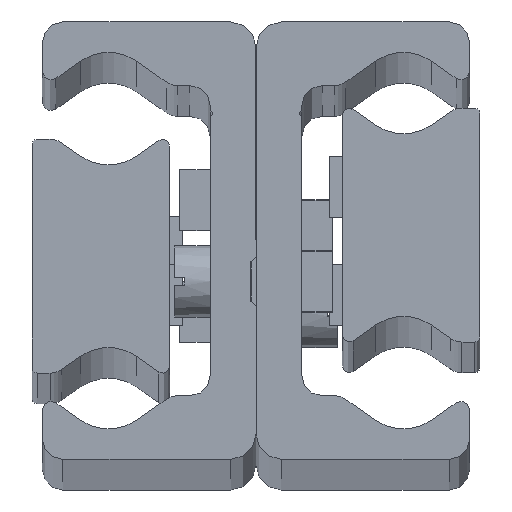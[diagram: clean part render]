
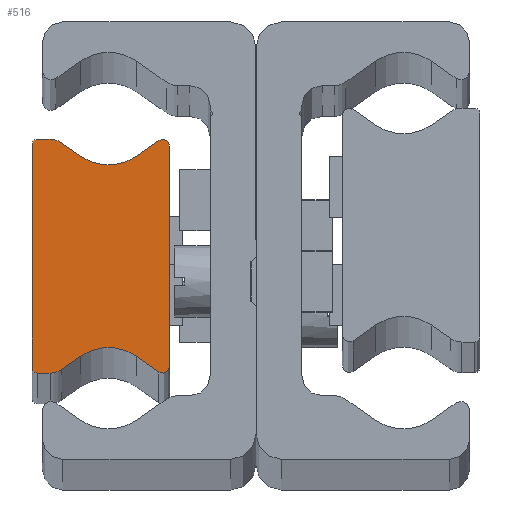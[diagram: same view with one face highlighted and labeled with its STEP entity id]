
A CAD part, top view. The second image highlights one B-rep face of the part: STEP entity #516.
In plain terms, the highlighted planar face has unit normal (0, 0, 1) as drawn and (0, 0, -1) by its records, which use the part's own axes.
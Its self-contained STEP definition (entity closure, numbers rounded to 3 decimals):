
#516 = ADVANCED_FACE( '', ( #1209 ), #1210, .F. );
#1209 = FACE_OUTER_BOUND( '', #2163, .T. );
#1210 = PLANE( '', #2164 );
#2163 = EDGE_LOOP( '', ( #3437, #3438, #3439, #3440, #3441, #3442, #3443, #3444, #3445, #3446, #3447, #3448, #3449, #3450, #3451, #3452 ) );
#2164 = AXIS2_PLACEMENT_3D( '', #3453, #3454, #3455 );
#3437 = ORIENTED_EDGE( '', *, *, #4916, .F. );
#3438 = ORIENTED_EDGE( '', *, *, #4917, .F. );
#3439 = ORIENTED_EDGE( '', *, *, #4918, .F. );
#3440 = ORIENTED_EDGE( '', *, *, #4919, .F. );
#3441 = ORIENTED_EDGE( '', *, *, #4920, .F. );
#3442 = ORIENTED_EDGE( '', *, *, #4788, .T. );
#3443 = ORIENTED_EDGE( '', *, *, #4921, .F. );
#3444 = ORIENTED_EDGE( '', *, *, #4922, .F. );
#3445 = ORIENTED_EDGE( '', *, *, #4923, .F. );
#3446 = ORIENTED_EDGE( '', *, *, #4924, .F. );
#3447 = ORIENTED_EDGE( '', *, *, #4925, .F. );
#3448 = ORIENTED_EDGE( '', *, *, #4926, .T. );
#3449 = ORIENTED_EDGE( '', *, *, #4631, .F. );
#3450 = ORIENTED_EDGE( '', *, *, #4716, .F. );
#3451 = ORIENTED_EDGE( '', *, *, #4927, .F. );
#3452 = ORIENTED_EDGE( '', *, *, #4928, .F. );
#3453 = CARTESIAN_POINT( '', ( 0.5, -11., -1730. ) );
#3454 = DIRECTION( '', ( 0., 0., 1. ) );
#3455 = DIRECTION( '', ( 1., 0., 0. ) );
#4631 = EDGE_CURVE( '', #5359, #5361, #5362, .T. );
#4716 = EDGE_CURVE( '', #5502, #5359, #5504, .T. );
#4788 = EDGE_CURVE( '', #5629, #5627, #5630, .T. );
#4916 = EDGE_CURVE( '', #5822, #5823, #5824, .T. );
#4917 = EDGE_CURVE( '', #5825, #5822, #5826, .T. );
#4918 = EDGE_CURVE( '', #5827, #5825, #5828, .T. );
#4919 = EDGE_CURVE( '', #5829, #5827, #5830, .T. );
#4920 = EDGE_CURVE( '', #5629, #5829, #5831, .T. );
#4921 = EDGE_CURVE( '', #5832, #5627, #5833, .T. );
#4922 = EDGE_CURVE( '', #5834, #5832, #5835, .T. );
#4923 = EDGE_CURVE( '', #5836, #5834, #5837, .T. );
#4924 = EDGE_CURVE( '', #5838, #5836, #5839, .T. );
#4925 = EDGE_CURVE( '', #5840, #5838, #5841, .T. );
#4926 = EDGE_CURVE( '', #5840, #5361, #5842, .T. );
#4927 = EDGE_CURVE( '', #5843, #5502, #5844, .T. );
#4928 = EDGE_CURVE( '', #5823, #5843, #5845, .T. );
#5359 = VERTEX_POINT( '', #6415 );
#5361 = VERTEX_POINT( '', #6418 );
#5362 = LINE( '', #6419, #6420 );
#5502 = VERTEX_POINT( '', #6579 );
#5504 = CIRCLE( '', #6582, 2. );
#5627 = VERTEX_POINT( '', #6729 );
#5629 = VERTEX_POINT( '', #6732 );
#5630 = CIRCLE( '', #6733, 4.763 );
#5822 = VERTEX_POINT( '', #6962 );
#5823 = VERTEX_POINT( '', #6963 );
#5824 = LINE( '', #6964, #6965 );
#5825 = VERTEX_POINT( '', #6966 );
#5826 = CIRCLE( '', #6967, 0.5 );
#5827 = VERTEX_POINT( '', #6968 );
#5828 = LINE( '', #6969, #6970 );
#5829 = VERTEX_POINT( '', #6971 );
#5830 = CIRCLE( '', #6972, 2. );
#5831 = LINE( '', #6973, #6974 );
#5832 = VERTEX_POINT( '', #6975 );
#5833 = LINE( '', #6976, #6977 );
#5834 = VERTEX_POINT( '', #6978 );
#5835 = CIRCLE( '', #6979, 0.668 );
#5836 = VERTEX_POINT( '', #6980 );
#5837 = LINE( '', #6981, #6982 );
#5838 = VERTEX_POINT( '', #6983 );
#5839 = CIRCLE( '', #6984, 0.668 );
#5840 = VERTEX_POINT( '', #6985 );
#5841 = LINE( '', #6986, #6987 );
#5842 = CIRCLE( '', #6988, 4.763 );
#5843 = VERTEX_POINT( '', #6989 );
#5844 = LINE( '', #6990, #6991 );
#5845 = CIRCLE( '', #6992, 0.5 );
#6415 = CARTESIAN_POINT( '', ( 2.895, -11.138, -1730. ) );
#6418 = CARTESIAN_POINT( '', ( 4.768, -9.827, -1730. ) );
#6419 = CARTESIAN_POINT( '', ( 2.895, -11.138, -1730. ) );
#6420 = VECTOR( '', #7598, 1000. );
#6579 = CARTESIAN_POINT( '', ( 1.748, -11.5, -1730. ) );
#6582 = AXIS2_PLACEMENT_3D( '', #7748, #7749, #7750 );
#6729 = CARTESIAN_POINT( '', ( 10.232, 9.827, -1730. ) );
#6732 = CARTESIAN_POINT( '', ( 4.768, 9.827, -1730. ) );
#6733 = AXIS2_PLACEMENT_3D( '', #7869, #7870, #7871 );
#6962 = CARTESIAN_POINT( '', ( 0., 11., -1730. ) );
#6963 = CARTESIAN_POINT( '', ( 0., -11., -1730. ) );
#6964 = CARTESIAN_POINT( '', ( 0., 11., -1730. ) );
#6965 = VECTOR( '', #8041, 1000. );
#6966 = CARTESIAN_POINT( '', ( 0.5, 11.5, -1730. ) );
#6967 = AXIS2_PLACEMENT_3D( '', #8042, #8043, #8044 );
#6968 = CARTESIAN_POINT( '', ( 1.748, 11.5, -1730. ) );
#6969 = CARTESIAN_POINT( '', ( 1.748, 11.5, -1730. ) );
#6970 = VECTOR( '', #8045, 1000. );
#6971 = CARTESIAN_POINT( '', ( 2.895, 11.138, -1730. ) );
#6972 = AXIS2_PLACEMENT_3D( '', #8046, #8047, #8048 );
#6973 = CARTESIAN_POINT( '', ( 4.768, 9.827, -1730. ) );
#6974 = VECTOR( '', #8049, 1000. );
#6975 = CARTESIAN_POINT( '', ( 12.449, 11.379, -1730. ) );
#6976 = CARTESIAN_POINT( '', ( 12.449, 11.379, -1730. ) );
#6977 = VECTOR( '', #8050, 1000. );
#6978 = CARTESIAN_POINT( '', ( 13.5, 10.832, -1730. ) );
#6979 = AXIS2_PLACEMENT_3D( '', #8051, #8052, #8053 );
#6980 = CARTESIAN_POINT( '', ( 13.5, -10.832, -1730. ) );
#6981 = CARTESIAN_POINT( '', ( 13.5, -10.832, -1730. ) );
#6982 = VECTOR( '', #8054, 1000. );
#6983 = CARTESIAN_POINT( '', ( 12.449, -11.379, -1730. ) );
#6984 = AXIS2_PLACEMENT_3D( '', #8055, #8056, #8057 );
#6985 = CARTESIAN_POINT( '', ( 10.232, -9.827, -1730. ) );
#6986 = CARTESIAN_POINT( '', ( 10.232, -9.827, -1730. ) );
#6987 = VECTOR( '', #8058, 1000. );
#6988 = AXIS2_PLACEMENT_3D( '', #8059, #8060, #8061 );
#6989 = CARTESIAN_POINT( '', ( 0.5, -11.5, -1730. ) );
#6990 = CARTESIAN_POINT( '', ( 0.5, -11.5, -1730. ) );
#6991 = VECTOR( '', #8062, 1000. );
#6992 = AXIS2_PLACEMENT_3D( '', #8063, #8064, #8065 );
#7598 = DIRECTION( '', ( 0.819, 0.574, 0. ) );
#7748 = CARTESIAN_POINT( '', ( 1.748, -9.5, -1730. ) );
#7749 = DIRECTION( '', ( 0., 0., 1. ) );
#7750 = DIRECTION( '', ( 1., 0., 0. ) );
#7869 = CARTESIAN_POINT( '', ( 7.5, 13.729, -1730. ) );
#7870 = DIRECTION( '', ( 0., 0., 1. ) );
#7871 = DIRECTION( '', ( 1., 0., 0. ) );
#8041 = DIRECTION( '', ( 0., -1., 0. ) );
#8042 = CARTESIAN_POINT( '', ( 0.5, 11., -1730. ) );
#8043 = DIRECTION( '', ( 0., 0., 1. ) );
#8044 = DIRECTION( '', ( 1., 0., 0. ) );
#8045 = DIRECTION( '', ( -1., 0., 0. ) );
#8046 = CARTESIAN_POINT( '', ( 1.748, 9.5, -1730. ) );
#8047 = DIRECTION( '', ( 0., 0., 1. ) );
#8048 = DIRECTION( '', ( 1., 0., 0. ) );
#8049 = DIRECTION( '', ( -0.819, 0.574, 0. ) );
#8050 = DIRECTION( '', ( -0.819, -0.574, 0. ) );
#8051 = CARTESIAN_POINT( '', ( 12.832, 10.832, -1730. ) );
#8052 = DIRECTION( '', ( 0., 0., 1. ) );
#8053 = DIRECTION( '', ( 1., 0., 0. ) );
#8054 = DIRECTION( '', ( 0., 1., 0. ) );
#8055 = CARTESIAN_POINT( '', ( 12.832, -10.832, -1730. ) );
#8056 = DIRECTION( '', ( 0., 0., 1. ) );
#8057 = DIRECTION( '', ( 1., 0., 0. ) );
#8058 = DIRECTION( '', ( 0.819, -0.574, 0. ) );
#8059 = CARTESIAN_POINT( '', ( 7.5, -13.729, -1730. ) );
#8060 = DIRECTION( '', ( 0., 0., 1. ) );
#8061 = DIRECTION( '', ( 1., 0., 0. ) );
#8062 = DIRECTION( '', ( 1., 0., 0. ) );
#8063 = CARTESIAN_POINT( '', ( 0.5, -11., -1730. ) );
#8064 = DIRECTION( '', ( 0., 0., 1. ) );
#8065 = DIRECTION( '', ( 1., 0., 0. ) );
